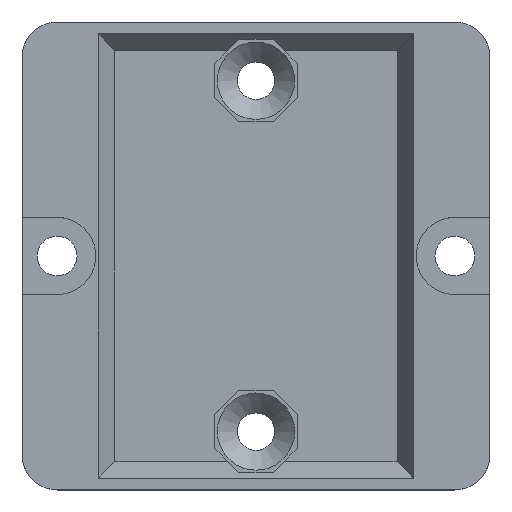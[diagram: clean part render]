
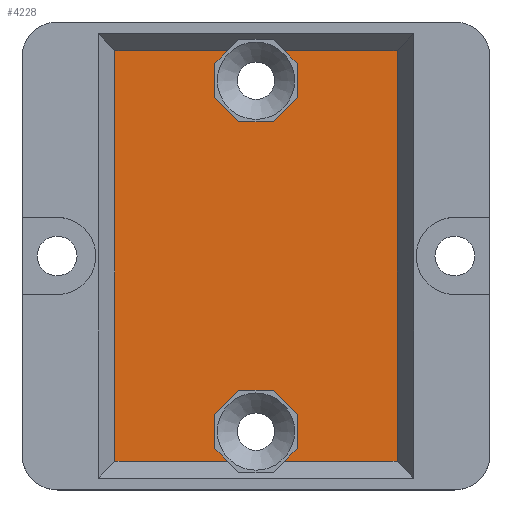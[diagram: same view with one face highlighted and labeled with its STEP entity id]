
A CAD part, top view. The second image highlights one B-rep face of the part: STEP entity #4228.
In plain terms, the highlighted planar face has unit normal (0, 0, 1).
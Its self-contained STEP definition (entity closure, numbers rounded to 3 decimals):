
#3498=CARTESIAN_POINT('',(1.46,-11.475,5.0));
#3499=VERTEX_POINT('',#3498);
#3500=CARTESIAN_POINT('',(3.525,-13.54,5.0));
#3501=VERTEX_POINT('',#3500);
#3502=CARTESIAN_POINT('',(1.46,-11.475,5.0));
#3503=DIRECTION('',(0.707,-0.707,0.0));
#3504=VECTOR('',#3503,2.92);
#3505=LINE('',#3502,#3504);
#3506=EDGE_CURVE('',#3499,#3501,#3505,.T.);
#3538=CARTESIAN_POINT('',(3.525,-16.46,5.0));
#3539=VERTEX_POINT('',#3538);
#3540=CARTESIAN_POINT('',(3.525,-13.54,5.0));
#3541=DIRECTION('',(0.0,-1.0,0.0));
#3542=VECTOR('',#3541,2.92);
#3543=LINE('',#3540,#3542);
#3544=EDGE_CURVE('',#3501,#3539,#3543,.T.);
#3569=CARTESIAN_POINT('',(2.428,-17.557,5.0));
#3570=VERTEX_POINT('',#3569);
#3571=CARTESIAN_POINT('',(3.525,-16.46,5.0));
#3572=DIRECTION('',(-0.707,-0.707,0.0));
#3573=VECTOR('',#3572,1.551);
#3574=LINE('',#3571,#3573);
#3575=EDGE_CURVE('',#3539,#3570,#3574,.T.);
#3639=CARTESIAN_POINT('',(-1.46,-11.475,5.0));
#3640=VERTEX_POINT('',#3639);
#3641=CARTESIAN_POINT('',(-1.46,-11.475,5.0));
#3642=DIRECTION('',(1.0,0.0,0.0));
#3643=VECTOR('',#3642,2.92);
#3644=LINE('',#3641,#3643);
#3645=EDGE_CURVE('',#3640,#3499,#3644,.T.);
#3670=CARTESIAN_POINT('',(-3.525,-13.54,5.0));
#3671=VERTEX_POINT('',#3670);
#3672=CARTESIAN_POINT('',(-3.525,-13.54,5.0));
#3673=DIRECTION('',(0.707,0.707,0.0));
#3674=VECTOR('',#3673,2.92);
#3675=LINE('',#3672,#3674);
#3676=EDGE_CURVE('',#3671,#3640,#3675,.T.);
#3701=CARTESIAN_POINT('',(-3.525,-16.46,5.0));
#3702=VERTEX_POINT('',#3701);
#3703=CARTESIAN_POINT('',(-3.525,-16.46,5.0));
#3704=DIRECTION('',(0.0,1.0,0.0));
#3705=VECTOR('',#3704,2.92);
#3706=LINE('',#3703,#3705);
#3707=EDGE_CURVE('',#3702,#3671,#3706,.T.);
#3732=CARTESIAN_POINT('',(-2.428,-17.557,5.0));
#3733=VERTEX_POINT('',#3732);
#3734=CARTESIAN_POINT('',(-2.428,-17.557,5.0));
#3735=DIRECTION('',(-0.707,0.707,0.0));
#3736=VECTOR('',#3735,1.551);
#3737=LINE('',#3734,#3736);
#3738=EDGE_CURVE('',#3733,#3702,#3737,.T.);
#3781=CARTESIAN_POINT('',(-1.46,11.475,5.0));
#3782=VERTEX_POINT('',#3781);
#3783=CARTESIAN_POINT('',(-3.525,13.54,5.0));
#3784=VERTEX_POINT('',#3783);
#3785=CARTESIAN_POINT('',(-1.46,11.475,5.0));
#3786=DIRECTION('',(-0.707,0.707,0.0));
#3787=VECTOR('',#3786,2.92);
#3788=LINE('',#3785,#3787);
#3789=EDGE_CURVE('',#3782,#3784,#3788,.T.);
#3821=CARTESIAN_POINT('',(-3.525,16.46,5.0));
#3822=VERTEX_POINT('',#3821);
#3823=CARTESIAN_POINT('',(-3.525,13.54,5.0));
#3824=DIRECTION('',(0.0,1.0,0.0));
#3825=VECTOR('',#3824,2.92);
#3826=LINE('',#3823,#3825);
#3827=EDGE_CURVE('',#3784,#3822,#3826,.T.);
#3852=CARTESIAN_POINT('',(-2.428,17.557,5.0));
#3853=VERTEX_POINT('',#3852);
#3854=CARTESIAN_POINT('',(-3.525,16.46,5.0));
#3855=DIRECTION('',(0.707,0.707,0.0));
#3856=VECTOR('',#3855,1.551);
#3857=LINE('',#3854,#3856);
#3858=EDGE_CURVE('',#3822,#3853,#3857,.T.);
#3922=CARTESIAN_POINT('',(3.525,16.46,5.0));
#3923=VERTEX_POINT('',#3922);
#3924=CARTESIAN_POINT('',(3.525,13.54,5.0));
#3925=VERTEX_POINT('',#3924);
#3926=CARTESIAN_POINT('',(3.525,16.46,5.0));
#3927=DIRECTION('',(0.0,-1.0,0.0));
#3928=VECTOR('',#3927,2.92);
#3929=LINE('',#3926,#3928);
#3930=EDGE_CURVE('',#3923,#3925,#3929,.T.);
#3962=CARTESIAN_POINT('',(2.428,17.557,5.0));
#3963=VERTEX_POINT('',#3962);
#3964=CARTESIAN_POINT('',(2.428,17.557,5.0));
#3965=DIRECTION('',(0.707,-0.707,0.0));
#3966=VECTOR('',#3965,1.551);
#3967=LINE('',#3964,#3966);
#3968=EDGE_CURVE('',#3963,#3923,#3967,.T.);
#3992=CARTESIAN_POINT('',(1.46,11.475,5.0));
#3993=VERTEX_POINT('',#3992);
#3994=CARTESIAN_POINT('',(1.46,11.475,5.0));
#3995=DIRECTION('',(-1.0,0.0,0.0));
#3996=VECTOR('',#3995,2.92);
#3997=LINE('',#3994,#3996);
#3998=EDGE_CURVE('',#3993,#3782,#3997,.T.);
#4023=CARTESIAN_POINT('',(3.525,13.54,5.0));
#4024=DIRECTION('',(-0.707,-0.707,0.0));
#4025=VECTOR('',#4024,2.92);
#4026=LINE('',#4023,#4025);
#4027=EDGE_CURVE('',#3925,#3993,#4026,.T.);
#4067=CARTESIAN_POINT('',(-12.057,-17.557,5.0));
#4068=VERTEX_POINT('',#4067);
#4069=CARTESIAN_POINT('',(-12.057,-17.557,5.0));
#4070=DIRECTION('',(1.0,0.0,0.0));
#4071=VECTOR('',#4070,9.628);
#4072=LINE('',#4069,#4071);
#4073=EDGE_CURVE('',#4068,#3733,#4072,.T.);
#4091=CARTESIAN_POINT('',(12.057,-17.557,5.0));
#4092=VERTEX_POINT('',#4091);
#4099=CARTESIAN_POINT('',(2.428,-17.557,5.0));
#4100=DIRECTION('',(1.0,0.0,0.0));
#4101=VECTOR('',#4100,9.628);
#4102=LINE('',#4099,#4101);
#4103=EDGE_CURVE('',#3570,#4092,#4102,.T.);
#4116=CARTESIAN_POINT('',(12.057,17.557,5.0));
#4117=VERTEX_POINT('',#4116);
#4118=CARTESIAN_POINT('',(12.057,17.557,5.0));
#4119=DIRECTION('',(-1.0,0.0,0.0));
#4120=VECTOR('',#4119,9.628);
#4121=LINE('',#4118,#4120);
#4122=EDGE_CURVE('',#4117,#3963,#4121,.T.);
#4140=CARTESIAN_POINT('',(-12.057,17.557,5.0));
#4141=VERTEX_POINT('',#4140);
#4148=CARTESIAN_POINT('',(-2.428,17.557,5.0));
#4149=DIRECTION('',(-1.0,0.0,0.0));
#4150=VECTOR('',#4149,9.628);
#4151=LINE('',#4148,#4150);
#4152=EDGE_CURVE('',#3853,#4141,#4151,.T.);
#4162=CARTESIAN_POINT('',(-12.057,17.557,5.0));
#4163=DIRECTION('',(0.0,-1.0,0.0));
#4164=VECTOR('',#4163,35.113);
#4165=LINE('',#4162,#4164);
#4166=EDGE_CURVE('',#4141,#4068,#4165,.T.);
#4184=CARTESIAN_POINT('',(12.057,-17.557,5.0));
#4185=DIRECTION('',(0.0,1.0,0.0));
#4186=VECTOR('',#4185,35.113);
#4187=LINE('',#4184,#4186);
#4188=EDGE_CURVE('',#4092,#4117,#4187,.T.);
#4201=CARTESIAN_POINT('',(0.0,0.,5.0));
#4202=DIRECTION('',(0.0,0.0,1.0));
#4203=DIRECTION('',(1.0,0.0,0.0));
#4204=AXIS2_PLACEMENT_3D('',#4201,#4202,#4203);
#4205=PLANE('',#4204);
#4206=ORIENTED_EDGE('',*,*,#3575,.T.);
#4207=ORIENTED_EDGE('',*,*,#4103,.T.);
#4208=ORIENTED_EDGE('',*,*,#4188,.T.);
#4209=ORIENTED_EDGE('',*,*,#4122,.T.);
#4210=ORIENTED_EDGE('',*,*,#3968,.T.);
#4211=ORIENTED_EDGE('',*,*,#3930,.T.);
#4212=ORIENTED_EDGE('',*,*,#4027,.T.);
#4213=ORIENTED_EDGE('',*,*,#3998,.T.);
#4214=ORIENTED_EDGE('',*,*,#3789,.T.);
#4215=ORIENTED_EDGE('',*,*,#3827,.T.);
#4216=ORIENTED_EDGE('',*,*,#3858,.T.);
#4217=ORIENTED_EDGE('',*,*,#4152,.T.);
#4218=ORIENTED_EDGE('',*,*,#4166,.T.);
#4219=ORIENTED_EDGE('',*,*,#4073,.T.);
#4220=ORIENTED_EDGE('',*,*,#3738,.T.);
#4221=ORIENTED_EDGE('',*,*,#3707,.T.);
#4222=ORIENTED_EDGE('',*,*,#3676,.T.);
#4223=ORIENTED_EDGE('',*,*,#3645,.T.);
#4224=ORIENTED_EDGE('',*,*,#3506,.T.);
#4225=ORIENTED_EDGE('',*,*,#3544,.T.);
#4226=EDGE_LOOP('',(#4206,#4207,#4208,#4209,#4210,#4211,#4212,#4213,#4214,#4215,#4216,#4217,#4218,#4219,#4220,#4221,#4222,#4223,#4224,#4225));
#4227=FACE_OUTER_BOUND('',#4226,.T.);
#4228=ADVANCED_FACE('',(#4227),#4205,.T.);
